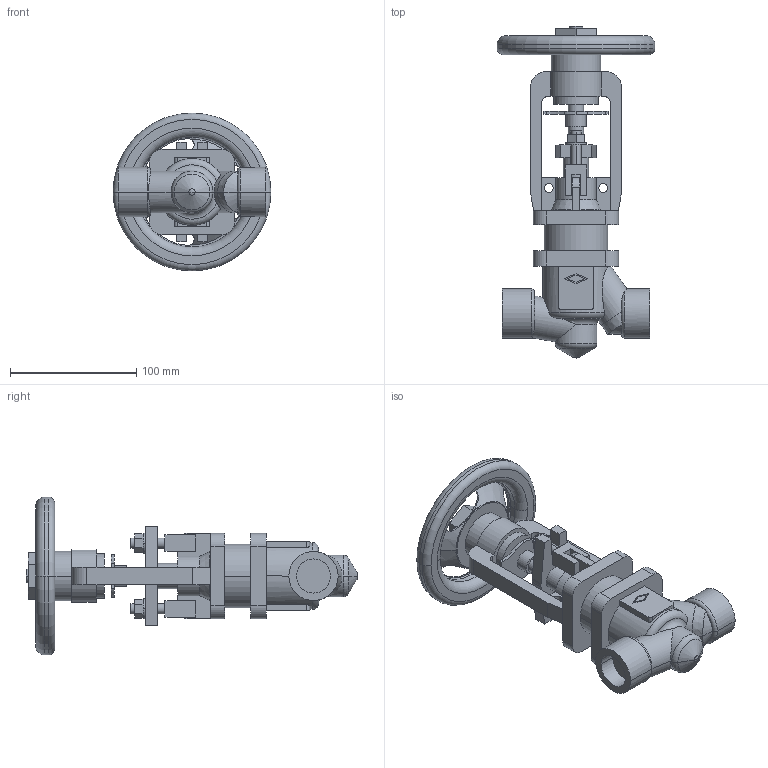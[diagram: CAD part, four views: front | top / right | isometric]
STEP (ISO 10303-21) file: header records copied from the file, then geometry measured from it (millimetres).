
FILE_DESCRIPTION(('OneSpaceDesigner STEP Export'),'2;1');
FILE_NAME('c000004266.stp','2010-05-04T10:45:56',(''),(''),'OneSpace Designer STEP processor for AP214 (Solid Model)','OneSpace Modeling 15.50B 03-Nov-2007 (C) CoCreate Software GmbH','');
FILE_SCHEMA(('AUTOMOTIVE_DESIGN { 1 0 10303 214 1 1 1 1 }'));
Length unit declared in the file: millimetre
Products named in the file (1): 1
Bounding box: 125 x 262.73 x 125 mm (x, y, z)
Volume: 592781.4 mm3; surface area: 113040.9 mm2
Topology: 1 solids, 1 shells, 282 faces, 749 edges, 488 vertices
Faces by surface type: plane 143, cylinder 97, torus 24, cone 16, sphere 2
Entity records: 11214 total; most frequent: CARTESIAN_POINT 2270, ORIENTED_EDGE 1498, DIRECTION 1260, EDGE_CURVE 749, VERTEX_POINT 488, AXIS2_PLACEMENT_3D 423, VECTOR 414, LINE 414
